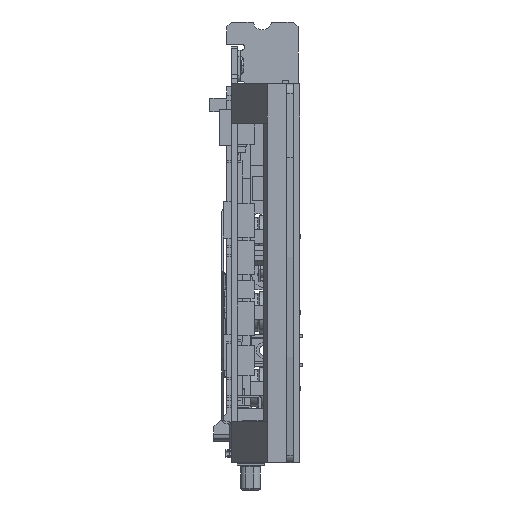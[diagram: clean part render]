
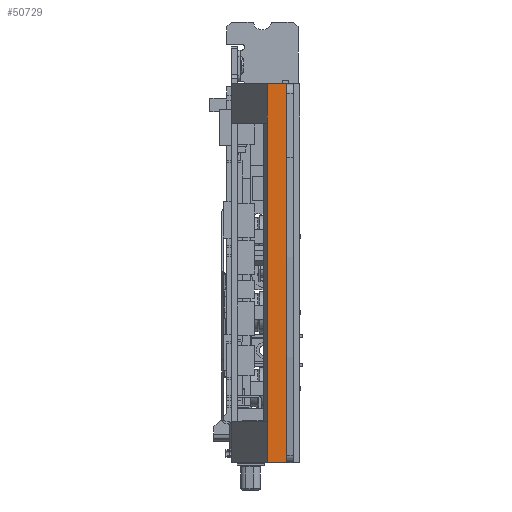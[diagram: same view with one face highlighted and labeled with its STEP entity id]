
A CAD part, front view. The second image highlights one B-rep face of the part: STEP entity #50729.
In plain terms, the highlighted planar face has unit normal (0, -1, 0).
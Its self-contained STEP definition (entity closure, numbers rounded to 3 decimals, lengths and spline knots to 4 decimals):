
#3774=DIRECTION('',(1.,0.,0.));
#3775=VECTOR('',#3774,0.198);
#3776=CARTESIAN_POINT('',(0.364,-12.579,-0.185));
#3777=LINE('',#3776,#3775);
#3867=DIRECTION('',(1.,0.,0.));
#3868=VECTOR('',#3867,0.198);
#3869=CARTESIAN_POINT('',(0.364,-12.579,-4.01));
#3870=LINE('',#3869,#3868);
#3943=DIRECTION('',(0.,0.,1.));
#3944=VECTOR('',#3943,3.825);
#3945=CARTESIAN_POINT('',(0.364,-12.579,-4.01));
#3946=LINE('',#3945,#3944);
#3962=DIRECTION('',(0.,0.,1.));
#3963=VECTOR('',#3962,3.825);
#3964=CARTESIAN_POINT('',(0.562,-12.579,-4.01));
#3965=LINE('',#3964,#3963);
#48175=CARTESIAN_POINT('',(0.364,-12.579,-4.01));
#48176=VERTEX_POINT('',#48175);
#48177=CARTESIAN_POINT('',(0.562,-12.579,-4.01));
#48178=VERTEX_POINT('',#48177);
#48195=CARTESIAN_POINT('',(0.364,-12.579,-0.185));
#48196=VERTEX_POINT('',#48195);
#48197=CARTESIAN_POINT('',(0.562,-12.579,-0.185));
#48198=VERTEX_POINT('',#48197);
#50717=CARTESIAN_POINT('',(0.364,-12.579,-4.01));
#50718=DIRECTION('',(0.,-1.,0.));
#50719=DIRECTION('',(1.,0.,0.));
#50720=AXIS2_PLACEMENT_3D('',#50717,#50718,#50719);
#50721=PLANE('',#50720);
#50722=ORIENTED_EDGE('',*,*,#50650,.F.);
#50723=ORIENTED_EDGE('',*,*,#50695,.T.);
#50724=ORIENTED_EDGE('',*,*,#50443,.T.);
#50726=ORIENTED_EDGE('',*,*,#50725,.F.);
#50727=EDGE_LOOP('',(#50722,#50723,#50724,#50726));
#50728=FACE_OUTER_BOUND('',#50727,.F.);
#50729=ADVANCED_FACE('',(#50728),#50721,.T.);
#50443=EDGE_CURVE('',#48196,#48198,#3777,.T.);
#50650=EDGE_CURVE('',#48176,#48178,#3870,.T.);
#50695=EDGE_CURVE('',#48176,#48196,#3946,.T.);
#50725=EDGE_CURVE('',#48178,#48198,#3965,.T.);
